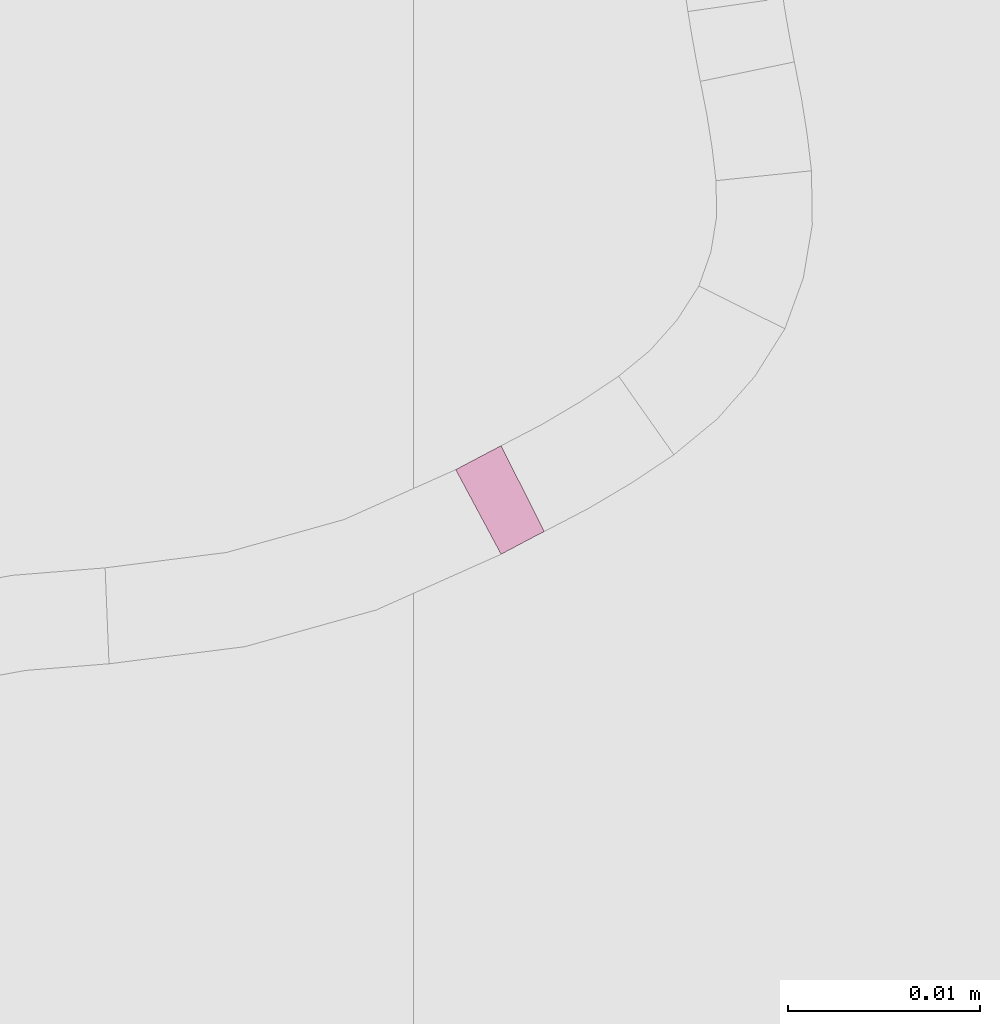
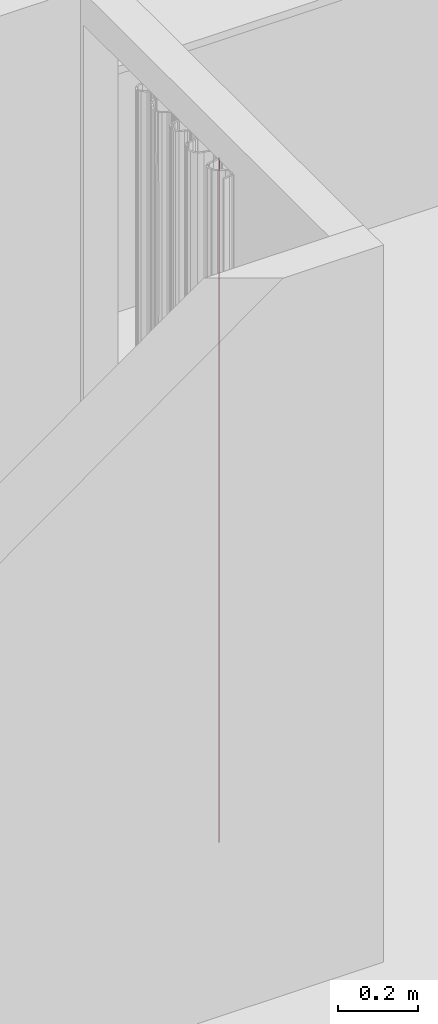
# One storey, part 290 of 418: 1 furnishing.
"""IFC2X3 building model written with IfcOpenShell, lengths in millimetres."""

from ifc_helpers import new_model, entity, si_unit, converted_unit, derived_unit, money_unit, point, direction, frame, frame_2d, origin_with_axes, place, context, subcontext, project, spatial, polyline, circle_curve, parameter, trimmed, segment, composite_curve, outline, extrude, material, type_object, element, save


model = new_model("IFC2X3")

# Units and contexts
model_context = context("Model", 3, precision=0.01, world=origin_with_axes(), true_north=direction((0.0, 1.0)))
body_context = subcontext(model_context, "Body", "Model", "MODEL_VIEW")
ifc_project = project(units=[si_unit("LENGTHUNIT", "METRE", prefix="MILLI"), si_unit("AREAUNIT", "SQUARE_METRE"), si_unit("VOLUMEUNIT", "CUBIC_METRE"), converted_unit("PLANEANGLEUNIT", "DEGREE", entity("IfcPlaneAngleMeasure", 0.0174532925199), si_unit("PLANEANGLEUNIT", "RADIAN"), dimensions=[0, 0, 0, 0, 0, 0, 0]), si_unit("SOLIDANGLEUNIT", "STERADIAN"), money_unit("EUR"), converted_unit("TIMEUNIT", "Year", entity("IfcTimeMeasure", 31556926.0), si_unit("TIMEUNIT", "SECOND"), dimensions=[0, 0, 1, 0, 0, 0, 0]), si_unit("MASSUNIT", "GRAM", prefix="KILO"), si_unit("THERMODYNAMICTEMPERATUREUNIT", "DEGREE_CELSIUS"), si_unit("LUMINOUSINTENSITYUNIT", "LUMEN"), si_unit("ENERGYUNIT", "JOULE", prefix="MEGA"), derived_unit("THERMALCONDUCTANCEUNIT", [(si_unit("POWERUNIT", "WATT"), 1), (si_unit("LENGTHUNIT", "METRE"), -1), (si_unit("THERMODYNAMICTEMPERATUREUNIT", "KELVIN"), -1)]), derived_unit("SPECIFICHEATCAPACITYUNIT", [(si_unit("ENERGYUNIT", "JOULE"), 1), (si_unit("MASSUNIT", "GRAM", prefix="KILO"), -1), (si_unit("THERMODYNAMICTEMPERATUREUNIT", "KELVIN"), -1)]), derived_unit("MASSDENSITYUNIT", [(si_unit("MASSUNIT", "GRAM", prefix="KILO"), 1), (si_unit("VOLUMEUNIT", "CUBIC_METRE"), -1)])], contexts=[model_context])

# Site, building, storey
site_placement = place(None, origin_with_axes())
site = spatial("IfcSite", under=ifc_project, at=site_placement, Name="Paldiski mnt 245/1, Tallinn, Harjumaa", CompositionType="COMPLEX")
building_placement = place(site_placement, origin_with_axes())
building = spatial("IfcBuilding", under=site, at=building_placement, Name="RKAS Hoone üldnimetus (kasutust iseloomustav) -> IFC Project Manager -> SOLIBRI", CompositionType="ELEMENT")
storey_placement = place(building_placement, origin_with_axes())
storey = spatial("IfcBuildingStorey", under=building, at=storey_placement, Name="Esimene korrus", CompositionType="ELEMENT", Elevation=0.0)

# Furnishing
ifc_material = material(Name="KON-00_GENEERILINE - KONSTRUKTSIOON")
furniture_type = type_object("IfcFurnitureType", Name="KON-00_GENEERILINE - KONSTRUKTSIOON 5", AssemblyPlace="NOTDEFINED")
furnishing_placement = place(storey_placement, frame((-44017.8421632, -2245.91739409, 0.0), z_axis=(0.0, 0.0, 1.0), x_axis=(-0.887028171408, -0.461715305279, 0.0)))
element("IfcFurnishingElement", 1, at=furnishing_placement, inside=storey, type_object=furniture_type, material=ifc_material, Name="SS-52", context=body_context, shape_type="SweptSolid", body=[
    extrude(outline(composite_curve([segment(trimmed(circle_curve(frame_2d((0.0, 248.832560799), x_axis=(0.0, -1.0)), 248.832560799), [point((0.0, 0.0)), parameter(0.0)], [point((2.67324041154, 0.0143598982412)), parameter(0.615547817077)], True, "CARTESIAN"), True, "CONTINUOUS"), segment(polyline([(2.67324041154, 0.0143598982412), (2.61231531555, 5.01399400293)]), True, "CONTINUOUS"), segment(trimmed(circle_curve(frame_2d((0.0, 248.832560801), x_axis=(0.000271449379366, -0.999999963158)), 243.832560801), [point((2.61231531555, 5.01399400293)), parameter(0.598300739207)], [point((0.0661881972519, 5.00000898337)), parameter(0.0)], False, "CARTESIAN"), True, "CONTINUOUS"), segment(polyline([(0.0661881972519, 5.00000898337), (0.0, 0.0)]), True, "CONTINUOUS")], self_intersect=False)), origin_with_axes(), (0.0, 0.0, 1.0), 2100.0),
])

save(model, "model.ifc")
